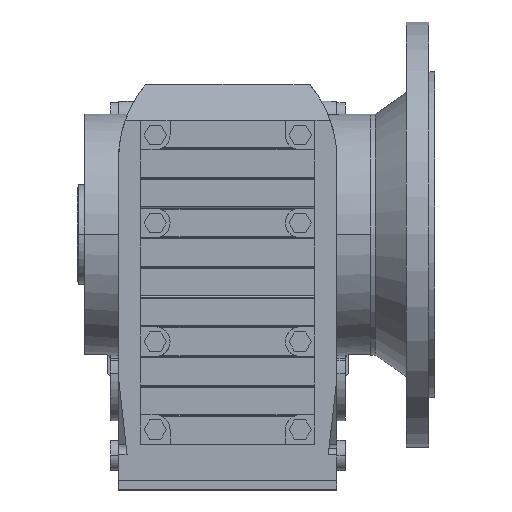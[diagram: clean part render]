
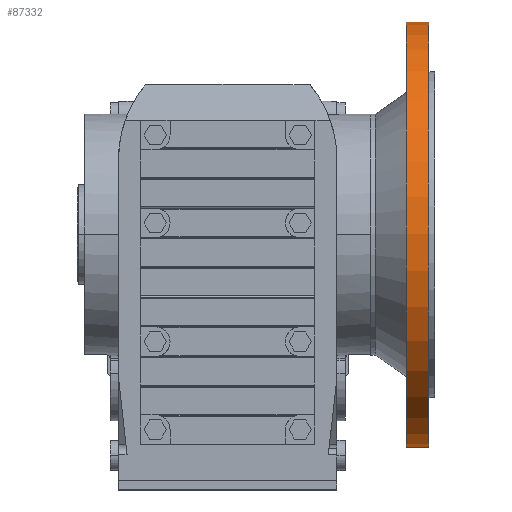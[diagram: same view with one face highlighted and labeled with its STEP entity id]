
A CAD part, top view. The second image highlights one B-rep face of the part: STEP entity #87332.
In plain terms, the highlighted cylindrical face has radius 150 mm (diameter 300 mm), a partial arc.
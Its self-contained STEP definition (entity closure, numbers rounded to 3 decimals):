
#86389 = PLANE('',#86390);
#86390 = AXIS2_PLACEMENT_3D('',#86391,#86392,#86393);
#86391 = CARTESIAN_POINT('',(142.,150.,0.));
#86392 = DIRECTION('',(-1.,0.,0.));
#86393 = DIRECTION('',(0.,-1.,0.));
#86825 = EDGE_CURVE('',#86826,#86828,#86830,.T.);
#86826 = VERTEX_POINT('',#86827);
#86827 = CARTESIAN_POINT('',(142.,-150.,0.));
#86828 = VERTEX_POINT('',#86829);
#86829 = CARTESIAN_POINT('',(142.,150.,0.));
#86830 = SURFACE_CURVE('',#86831,(#86836,#86843),.PCURVE_S1.);
#86831 = CIRCLE('',#86832,150.);
#86832 = AXIS2_PLACEMENT_3D('',#86833,#86834,#86835);
#86833 = CARTESIAN_POINT('',(142.,0.,0.));
#86834 = DIRECTION('',(-1.,0.,0.));
#86835 = DIRECTION('',(0.,-1.,0.));
#86836 = PCURVE('',#86389,#86837);
#86837 = DEFINITIONAL_REPRESENTATION('',(#86838),#86842);
#86838 = CIRCLE('',#86839,150.);
#86839 = AXIS2_PLACEMENT_2D('',#86840,#86841);
#86840 = CARTESIAN_POINT('',(150.,0.));
#86841 = DIRECTION('',(1.,0.));
#86842 = ( GEOMETRIC_REPRESENTATION_CONTEXT(2) 
PARAMETRIC_REPRESENTATION_CONTEXT() REPRESENTATION_CONTEXT('2D SPACE',''
  ) );
#86843 = PCURVE('',#86844,#86849);
#86844 = CYLINDRICAL_SURFACE('',#86845,150.);
#86845 = AXIS2_PLACEMENT_3D('',#86846,#86847,#86848);
#86846 = CARTESIAN_POINT('',(0.,0.,0.));
#86847 = DIRECTION('',(-1.,0.,0.));
#86848 = DIRECTION('',(0.,-1.,0.));
#86849 = DEFINITIONAL_REPRESENTATION('',(#86850),#86853);
#86850 = B_SPLINE_CURVE_WITH_KNOTS('',1,(#86851,#86852),.UNSPECIFIED.,
  .F.,.F.,(2,2),(0.,3.142),.PIECEWISE_BEZIER_KNOTS.);
#86851 = CARTESIAN_POINT('',(0.,-142.));
#86852 = CARTESIAN_POINT('',(3.142,-142.));
#86853 = ( GEOMETRIC_REPRESENTATION_CONTEXT(2) 
PARAMETRIC_REPRESENTATION_CONTEXT() REPRESENTATION_CONTEXT('2D SPACE',''
  ) );
#86870 = CYLINDRICAL_SURFACE('',#86871,150.);
#86871 = AXIS2_PLACEMENT_3D('',#86872,#86873,#86874);
#86872 = CARTESIAN_POINT('',(0.,0.,0.));
#86873 = DIRECTION('',(-1.,0.,0.));
#86874 = DIRECTION('',(0.,-1.,0.));
#87031 = PLANE('',#87032);
#87032 = AXIS2_PLACEMENT_3D('',#87033,#87034,#87035);
#87033 = CARTESIAN_POINT('',(126.,100.405,0.));
#87034 = DIRECTION('',(1.,0.,0.));
#87035 = DIRECTION('',(0.,1.,0.));
#87265 = EDGE_CURVE('',#86828,#87266,#87268,.T.);
#87266 = VERTEX_POINT('',#87267);
#87267 = CARTESIAN_POINT('',(126.,150.,0.));
#87268 = SURFACE_CURVE('',#87269,(#87273,#87279),.PCURVE_S1.);
#87269 = LINE('',#87270,#87271);
#87270 = CARTESIAN_POINT('',(0.,150.,
    0.));
#87271 = VECTOR('',#87272,1.);
#87272 = DIRECTION('',(-1.,0.,0.));
#87273 = PCURVE('',#86870,#87274);
#87274 = DEFINITIONAL_REPRESENTATION('',(#87275),#87278);
#87275 = B_SPLINE_CURVE_WITH_KNOTS('',1,(#87276,#87277),.UNSPECIFIED.,
  .F.,.F.,(2,2),(-142.,-126.),.PIECEWISE_BEZIER_KNOTS.);
#87276 = CARTESIAN_POINT('',(3.142,-142.));
#87277 = CARTESIAN_POINT('',(3.142,-126.));
#87278 = ( GEOMETRIC_REPRESENTATION_CONTEXT(2) 
PARAMETRIC_REPRESENTATION_CONTEXT() REPRESENTATION_CONTEXT('2D SPACE',''
  ) );
#87279 = PCURVE('',#86844,#87280);
#87280 = DEFINITIONAL_REPRESENTATION('',(#87281),#87284);
#87281 = B_SPLINE_CURVE_WITH_KNOTS('',1,(#87282,#87283),.UNSPECIFIED.,
  .F.,.F.,(2,2),(-142.,-126.),.PIECEWISE_BEZIER_KNOTS.);
#87282 = CARTESIAN_POINT('',(3.142,-142.));
#87283 = CARTESIAN_POINT('',(3.142,-126.));
#87284 = ( GEOMETRIC_REPRESENTATION_CONTEXT(2) 
PARAMETRIC_REPRESENTATION_CONTEXT() REPRESENTATION_CONTEXT('2D SPACE',''
  ) );
#87287 = EDGE_CURVE('',#86826,#87288,#87290,.T.);
#87288 = VERTEX_POINT('',#87289);
#87289 = CARTESIAN_POINT('',(126.,-150.,0.));
#87290 = SURFACE_CURVE('',#87291,(#87295,#87301),.PCURVE_S1.);
#87291 = LINE('',#87292,#87293);
#87292 = CARTESIAN_POINT('',(0.,-150.,0.));
#87293 = VECTOR('',#87294,1.);
#87294 = DIRECTION('',(-1.,0.,0.));
#87295 = PCURVE('',#86870,#87296);
#87296 = DEFINITIONAL_REPRESENTATION('',(#87297),#87300);
#87297 = B_SPLINE_CURVE_WITH_KNOTS('',1,(#87298,#87299),.UNSPECIFIED.,
  .F.,.F.,(2,2),(-142.,-126.),.PIECEWISE_BEZIER_KNOTS.);
#87298 = CARTESIAN_POINT('',(6.283,-142.));
#87299 = CARTESIAN_POINT('',(6.283,-126.));
#87300 = ( GEOMETRIC_REPRESENTATION_CONTEXT(2) 
PARAMETRIC_REPRESENTATION_CONTEXT() REPRESENTATION_CONTEXT('2D SPACE',''
  ) );
#87301 = PCURVE('',#86844,#87302);
#87302 = DEFINITIONAL_REPRESENTATION('',(#87303),#87306);
#87303 = B_SPLINE_CURVE_WITH_KNOTS('',1,(#87304,#87305),.UNSPECIFIED.,
  .F.,.F.,(2,2),(-142.,-126.),.PIECEWISE_BEZIER_KNOTS.);
#87304 = CARTESIAN_POINT('',(0.,-142.));
#87305 = CARTESIAN_POINT('',(0.,-126.));
#87306 = ( GEOMETRIC_REPRESENTATION_CONTEXT(2) 
PARAMETRIC_REPRESENTATION_CONTEXT() REPRESENTATION_CONTEXT('2D SPACE',''
  ) );
#87332 = ADVANCED_FACE('',(#87333),#86844,.T.);
#87333 = FACE_BOUND('',#87334,.T.);
#87334 = EDGE_LOOP('',(#87335,#87336,#87337,#87362));
#87335 = ORIENTED_EDGE('',*,*,#86825,.T.);
#87336 = ORIENTED_EDGE('',*,*,#87265,.T.);
#87337 = ORIENTED_EDGE('',*,*,#87338,.F.);
#87338 = EDGE_CURVE('',#87288,#87266,#87339,.T.);
#87339 = SURFACE_CURVE('',#87340,(#87345,#87351),.PCURVE_S1.);
#87340 = CIRCLE('',#87341,150.);
#87341 = AXIS2_PLACEMENT_3D('',#87342,#87343,#87344);
#87342 = CARTESIAN_POINT('',(126.,0.,0.));
#87343 = DIRECTION('',(-1.,0.,0.));
#87344 = DIRECTION('',(0.,-1.,0.));
#87345 = PCURVE('',#86844,#87346);
#87346 = DEFINITIONAL_REPRESENTATION('',(#87347),#87350);
#87347 = B_SPLINE_CURVE_WITH_KNOTS('',1,(#87348,#87349),.UNSPECIFIED.,
  .F.,.F.,(2,2),(0.,3.142),.PIECEWISE_BEZIER_KNOTS.);
#87348 = CARTESIAN_POINT('',(0.,-126.));
#87349 = CARTESIAN_POINT('',(3.142,-126.));
#87350 = ( GEOMETRIC_REPRESENTATION_CONTEXT(2) 
PARAMETRIC_REPRESENTATION_CONTEXT() REPRESENTATION_CONTEXT('2D SPACE',''
  ) );
#87351 = PCURVE('',#87031,#87352);
#87352 = DEFINITIONAL_REPRESENTATION('',(#87353),#87361);
#87353 = ( BOUNDED_CURVE() B_SPLINE_CURVE(2,(#87354,#87355,#87356,#87357
    ,#87358,#87359,#87360),.UNSPECIFIED.,.T.,.F.) 
B_SPLINE_CURVE_WITH_KNOTS((1,2,2,2,2,1),(-2.094,0.,
    2.094,4.189,6.283,8.378),
.UNSPECIFIED.) CURVE() GEOMETRIC_REPRESENTATION_ITEM() 
RATIONAL_B_SPLINE_CURVE((1.,0.5,1.,0.5,1.,0.5,1.)) REPRESENTATION_ITEM(
  '') );
#87354 = CARTESIAN_POINT('',(-250.405,0.));
#87355 = CARTESIAN_POINT('',(-250.405,259.808));
#87356 = CARTESIAN_POINT('',(-25.405,129.904));
#87357 = CARTESIAN_POINT('',(199.595,0.));
#87358 = CARTESIAN_POINT('',(-25.405,-129.904));
#87359 = CARTESIAN_POINT('',(-250.405,-259.808));
#87360 = CARTESIAN_POINT('',(-250.405,0.));
#87361 = ( GEOMETRIC_REPRESENTATION_CONTEXT(2) 
PARAMETRIC_REPRESENTATION_CONTEXT() REPRESENTATION_CONTEXT('2D SPACE',''
  ) );
#87362 = ORIENTED_EDGE('',*,*,#87287,.F.);
